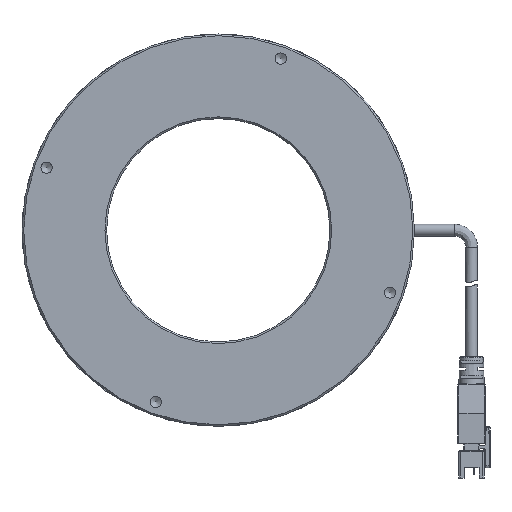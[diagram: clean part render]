
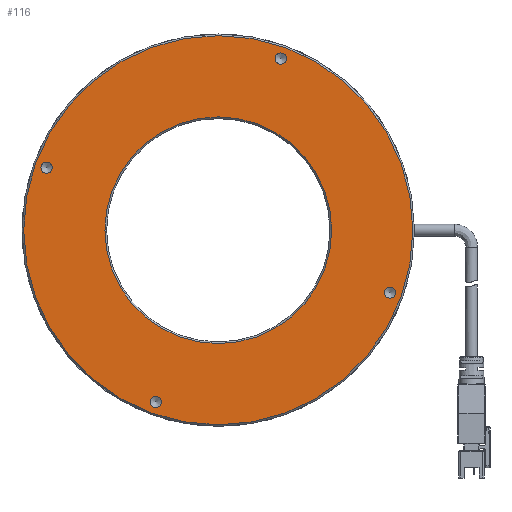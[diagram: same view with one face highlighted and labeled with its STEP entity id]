
A CAD part, front view. The second image highlights one B-rep face of the part: STEP entity #116.
In plain terms, the highlighted planar face has unit normal (0, -1, 0).
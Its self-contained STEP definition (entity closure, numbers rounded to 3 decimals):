
#1 = ORIENTED_EDGE ( 'NONE', *, *, #9164, .F. ) ;
#116 = ADVANCED_FACE ( 'NONE', ( #8799, #162, #276, #3800, #3586, #5914 ), #4871, .F. ) ;
#121 = AXIS2_PLACEMENT_3D ( 'NONE', #2581, #2675, #1929 ) ;
#162 = FACE_BOUND ( 'NONE', #7484, .T. ) ;
#199 = ORIENTED_EDGE ( 'NONE', *, *, #5731, .F. ) ;
#229 = DIRECTION ( 'NONE',  ( 0., 0., -1. ) ) ;
#261 = CARTESIAN_POINT ( 'NONE',  ( -2479.519, -1411.971, 50.743 ) ) ;
#268 = CIRCLE ( 'NONE', #6268, 57.5 ) ;
#276 = FACE_BOUND ( 'NONE', #5468, .T. ) ;
#545 = ORIENTED_EDGE ( 'NONE', *, *, #4809, .T. ) ;
#644 = DIRECTION ( 'NONE',  ( 0., 0., -1. ) ) ;
#653 = EDGE_LOOP ( 'NONE', ( #545 ) ) ;
#739 = CARTESIAN_POINT ( 'NONE',  ( -2447.245, -1411.971, -18.469 ) ) ;
#775 = VERTEX_POINT ( 'NONE', #2344 ) ;
#844 = EDGE_CURVE ( 'NONE', #775, #775, #2068, .T. ) ;
#1117 = VERTEX_POINT ( 'NONE', #3910 ) ;
#1348 = VERTEX_POINT ( 'NONE', #2624 ) ;
#1507 = EDGE_LOOP ( 'NONE', ( #5408 ) ) ;
#1764 = AXIS2_PLACEMENT_3D ( 'NONE', #7833, #7188, #8643 ) ;
#1929 = DIRECTION ( 'NONE',  ( 0., 0., 1. ) ) ;
#2068 = CIRCLE ( 'NONE', #1764, 33.5 ) ;
#2144 = DIRECTION ( 'NONE',  ( 0., 0., -1. ) ) ;
#2303 = AXIS2_PLACEMENT_3D ( 'NONE', #739, #2974, #6544 ) ;
#2344 = CARTESIAN_POINT ( 'NONE',  ( -2497.988, -1411.971, -33.5 ) ) ;
#2361 = EDGE_CURVE ( 'NONE', #9047, #9047, #8779, .T. ) ;
#2581 = CARTESIAN_POINT ( 'NONE',  ( -2555.488, -1411.971, 0. ) ) ;
#2604 = ORIENTED_EDGE ( 'NONE', *, *, #844, .F. ) ;
#2624 = CARTESIAN_POINT ( 'NONE',  ( -2548.731, -1411.971, 16.819 ) ) ;
#2675 = DIRECTION ( 'NONE',  ( 0., 1., 0. ) ) ;
#2974 = DIRECTION ( 'NONE',  ( 0., -1., 0. ) ) ;
#3209 = CARTESIAN_POINT ( 'NONE',  ( -2479.519, -1411.971, 49.093 ) ) ;
#3238 = EDGE_LOOP ( 'NONE', ( #2604 ) ) ;
#3376 = AXIS2_PLACEMENT_3D ( 'NONE', #261, #3753, #229 ) ;
#3447 = EDGE_LOOP ( 'NONE', ( #7277 ) ) ;
#3586 = FACE_BOUND ( 'NONE', #3238, .T. ) ;
#3753 = DIRECTION ( 'NONE',  ( 0., -1., 0. ) ) ;
#3800 = FACE_BOUND ( 'NONE', #3447, .T. ) ;
#3910 = CARTESIAN_POINT ( 'NONE',  ( -2497.988, -1411.971, -57.5 ) ) ;
#4016 = DIRECTION ( 'NONE',  ( 0., -1., 0. ) ) ;
#4809 = EDGE_CURVE ( 'NONE', #1117, #1117, #268, .T. ) ;
#4821 = CARTESIAN_POINT ( 'NONE',  ( -2447.245, -1411.971, -20.119 ) ) ;
#4871 = PLANE ( 'NONE',  #121 ) ;
#5234 = CIRCLE ( 'NONE', #6739, 1.65 ) ;
#5408 = ORIENTED_EDGE ( 'NONE', *, *, #7333, .F. ) ;
#5468 = EDGE_LOOP ( 'NONE', ( #199 ) ) ;
#5613 = CARTESIAN_POINT ( 'NONE',  ( -2516.457, -1411.971, -50.743 ) ) ;
#5731 = EDGE_CURVE ( 'NONE', #8823, #8823, #7433, .T. ) ;
#5914 = FACE_OUTER_BOUND ( 'NONE', #653, .T. ) ;
#5989 = DIRECTION ( 'NONE',  ( 0., 0., -1. ) ) ;
#6268 = AXIS2_PLACEMENT_3D ( 'NONE', #7015, #4016, #5989 ) ;
#6505 = CARTESIAN_POINT ( 'NONE',  ( -2548.731, -1411.971, 18.469 ) ) ;
#6544 = DIRECTION ( 'NONE',  ( 0., 0., -1. ) ) ;
#6555 = DIRECTION ( 'NONE',  ( 0., -1., 0. ) ) ;
#6739 = AXIS2_PLACEMENT_3D ( 'NONE', #5613, #6555, #2144 ) ;
#7015 = CARTESIAN_POINT ( 'NONE',  ( -2497.988, -1411.971, 0. ) ) ;
#7188 = DIRECTION ( 'NONE',  ( 0., -1., 0. ) ) ;
#7259 = AXIS2_PLACEMENT_3D ( 'NONE', #6505, #8662, #644 ) ;
#7277 = ORIENTED_EDGE ( 'NONE', *, *, #2361, .F. ) ;
#7333 = EDGE_CURVE ( 'NONE', #8118, #8118, #5234, .T. ) ;
#7433 = CIRCLE ( 'NONE', #3376, 1.65 ) ;
#7484 = EDGE_LOOP ( 'NONE', ( #1 ) ) ;
#7833 = CARTESIAN_POINT ( 'NONE',  ( -2497.988, -1411.971, 0. ) ) ;
#8118 = VERTEX_POINT ( 'NONE', #8383 ) ;
#8383 = CARTESIAN_POINT ( 'NONE',  ( -2516.457, -1411.971, -52.393 ) ) ;
#8484 = CIRCLE ( 'NONE', #7259, 1.65 ) ;
#8643 = DIRECTION ( 'NONE',  ( 0., 0., -1. ) ) ;
#8662 = DIRECTION ( 'NONE',  ( 0., -1., 0. ) ) ;
#8779 = CIRCLE ( 'NONE', #2303, 1.65 ) ;
#8799 = FACE_BOUND ( 'NONE', #1507, .T. ) ;
#8823 = VERTEX_POINT ( 'NONE', #3209 ) ;
#9047 = VERTEX_POINT ( 'NONE', #4821 ) ;
#9164 = EDGE_CURVE ( 'NONE', #1348, #1348, #8484, .T. ) ;
